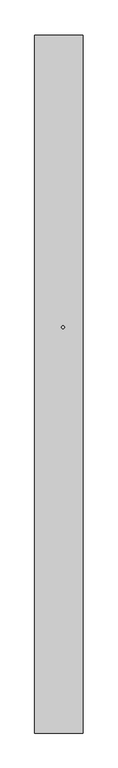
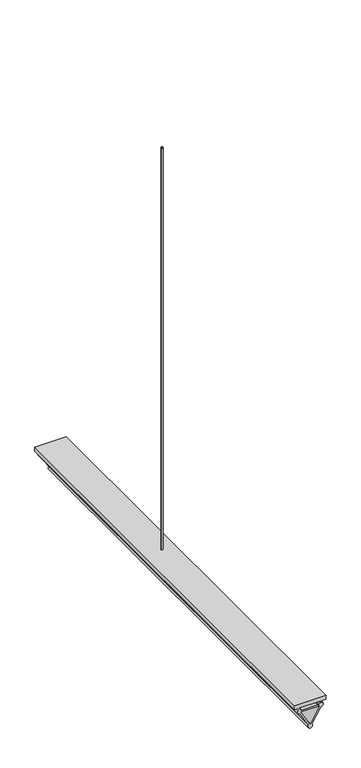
"""IFC4 building model written with IfcOpenShell, lengths in millimetres: proxy geometry, sztankiet : sztankiet."""

from ifc_helpers import new_model, si_unit, point, frame, frame_2d, origin, place, context, project, spatial, polyline, circle_curve, trimmed, segment, composite_curve, outline, extrude, source, transform, mapped, element, save


def generic_models_0603ff23(model_context):
    return source(origin(), model_context, "Body", "SweptSolid", [
        extrude(outline(composite_curve([segment(trimmed(circle_curve(frame_2d((25.4524499, -2094.2600526)), 10.0), [point((15.4524499, -2094.2600526))], [point((35.4524499, -2094.2600526))], False, "CARTESIAN"), True, "CONTINUOUS"), segment(trimmed(circle_curve(frame_2d((25.4524499, -2094.2600526)), 10.0), [point((35.4524499, -2094.2600526))], [point((15.4524499, -2094.2600526))], False, "CARTESIAN"), True, "CONTINUOUS")], self_intersect=False)), frame((0.0, 0.0, 4022.5937546), z_axis=(0.0, 0.0, 1.0), x_axis=(1.0, 0.0, 0.0)), (0.0, 0.0, 1.0), 4716.0774028),
        extrude(outline(composite_curve([segment(trimmed(circle_curve(frame_2d((3932.5938618, 116.4576657)), 25.0), [point((3907.750727, 113.6614805))], [point((3955.5071071, 126.4568251))], False, "CARTESIAN"), True, "CONTINUOUS"), segment(polyline([(3955.5071071, 126.4568251), (3972.5940407, 126.4568251), (3972.5940407, 170.4576666), (4022.5937546, 170.4576666), (4022.5937546, -177.5423353), (3972.5940407, -177.5423353), (3972.5940407, -133.5414937), (3955.5071071, -133.5414937)]), True, "CONTINUOUS"), segment(trimmed(circle_curve(frame_2d((3932.5938618, -123.5423343)), 25.0), [point((3955.5071071, -133.5414937))], [point((3907.750727, -120.7461491))], False, "CARTESIAN"), True, "CONTINUOUS"), segment(polyline([(3907.750727, -120.7461491), (3739.5908997, -23.6590276)]), True, "CONTINUOUS"), segment(trimmed(circle_curve(frame_2d((3724.7477649, -3.5423343)), 25.0), [point((3739.5908997, -23.6590276))], [point((3739.5908997, 16.574359))], False, "CARTESIAN"), True, "CONTINUOUS"), segment(polyline([(3739.5908997, 16.574359), (3907.750727, 113.6614805)]), True, "CONTINUOUS")], self_intersect=False), holes=[composite_curve([segment(polyline([(3917.750727, 96.3409724), (3749.5908997, -0.7461491)]), True, "CONTINUOUS"), segment(trimmed(circle_curve(frame_2d((3724.7477649, -3.5423343)), 25.0), [point((3749.5908997, -0.7461491))], [point((3749.5908997, -6.3385195))], False, "CARTESIAN"), True, "CONTINUOUS"), segment(polyline([(3749.5908997, -6.3385195), (3917.750727, -103.425641)]), True, "CONTINUOUS"), segment(trimmed(circle_curve(frame_2d((3932.5938618, -123.5423343)), 25.0), [point((3917.750727, -103.425641))], [point((3922.5938618, -100.6294558))], False, "CARTESIAN"), True, "CONTINUOUS"), segment(polyline([(3922.5938618, -100.6294558), (3922.5938618, 93.5447872)]), True, "CONTINUOUS"), segment(trimmed(circle_curve(frame_2d((3932.5938618, 116.4576657)), 25.0), [point((3922.5938618, 93.5447872))], [point((3917.750727, 96.3409724))], False, "CARTESIAN"), True, "CONTINUOUS")], self_intersect=False), composite_curve([segment(polyline([(3942.5938618, 93.5447872), (3942.5938618, -100.6294558)]), True, "CONTINUOUS"), segment(trimmed(circle_curve(frame_2d((3932.5938618, -123.5423343)), 25.0), [point((3942.5938618, -100.6294558))], [point((3955.5063817, -113.5415128))], False, "CARTESIAN"), True, "CONTINUOUS"), segment(polyline([(3955.5063817, -113.5415128), (3972.5940407, -113.5415128), (3972.5940407, 106.4568442), (3955.5063817, 106.4568442)]), True, "CONTINUOUS"), segment(trimmed(circle_curve(frame_2d((3932.5938618, 116.4576657)), 25.0), [point((3955.5063817, 106.4568442))], [point((3942.5938618, 93.5447872))], False, "CARTESIAN"), True, "CONTINUOUS")], self_intersect=False)]), frame((0.0, -5000.0, 0.0), z_axis=(0.0, 1.0, 0.0), x_axis=(0.0, 0.0, 1.0)), (0.0, 0.0, 1.0), 5000.0),
    ])


if __name__ == "__main__":
    model = new_model("IFC4")
    model_context = context("Model", 3, world=origin())
    ifc_project = project(units=[si_unit("LENGTHUNIT", "METRE", prefix="MILLI")], contexts=[model_context])
    site = spatial("IfcSite", under=ifc_project)
    building = spatial("IfcBuilding", under=site)
    placement = place(None, origin())
    generic_models_shape = generic_models_0603ff23(model_context)
    element("IfcBuildingElementProxy", 1, Name="sztankiet : sztankiet", ObjectType="sztankiet : sztankiet", at=placement, inside=building, context=model_context, shape_type="MappedRepresentation", body=[
        mapped(generic_models_shape, transform((0.0, 0.0, 0.0), x_axis=(1.0, 0.0, 0.0), y_axis=(0.0, 1.0, 0.0), z_axis=(0.0, 0.0, 1.0))),
    ])
    save(model, "model.ifc")
